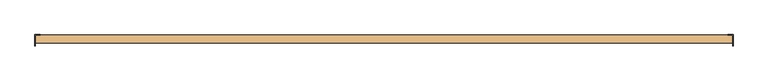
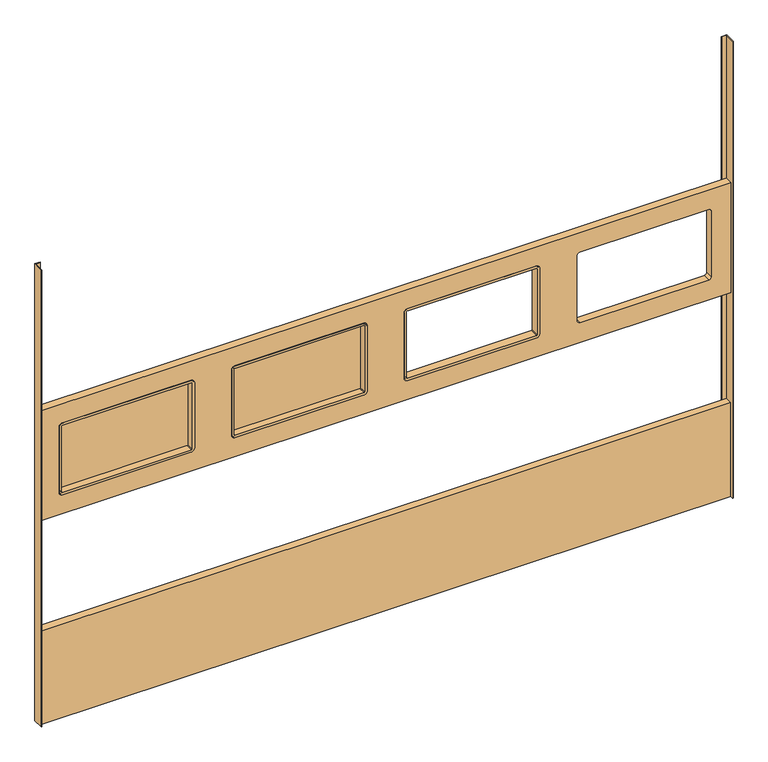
"""IFC4 building model written with IfcOpenShell, lengths in millimetres: door geometry, Vrata Nassau 9000F : Vrata Nassau 9000F."""

from ifc_helpers import new_model, si_unit, point, frame, frame_2d, origin, origin_with_axes, place, context, project, spatial, polyline, circle_curve, trimmed, segment, composite_curve, outline, extrude, source, transform, mapped, element, save
from ifc_brep_helpers import plane_surface, cylinder_surface, revolved_surface, advanced_brep


def door_15ad7d81(model_context):
    return source(origin(), model_context, "Body", "SolidModel", [
        advanced_brep(
        [(112.5, -225.5, 1388.0), (112.5, -269.5, 1388.0), (112.5, -269.5, 1788.0), (112.5, -225.5, 1788.0), (107.5, -223.5, 1388.0), (107.5, -225.5, 1388.0), (107.5, -225.5, 1788.0), (107.5, -223.5, 1788.0), (122.5, -271.5, 1388.0), (122.5, -223.5, 1388.0), (122.5, -223.5, 1788.0), (122.5, -271.5, 1788.0), (107.5, -269.5, 1388.0), (107.5, -271.5, 1388.0), (107.5, -271.5, 1788.0), (107.5, -269.5, 1788.0), (127.5, -225.5, 1803.0), (127.5, -269.5, 1803.0), (872.5, -269.5, 1803.0), (872.5, -225.5, 1803.0), (127.5, -223.5, 1808.0), (127.5, -225.5, 1808.0), (872.5, -225.5, 1808.0), (872.5, -223.5, 1808.0), (127.5, -271.5, 1793.0), (127.5, -223.5, 1793.0), (872.5, -223.5, 1793.0), (872.5, -271.5, 1793.0), (127.5, -269.5, 1808.0), (127.5, -271.5, 1808.0), (872.5, -271.5, 1808.0), (872.5, -269.5, 1808.0), (887.5, -225.5, 1788.0), (887.5, -269.5, 1788.0), (887.5, -269.5, 1388.0), (887.5, -225.5, 1388.0), (892.5, -223.5, 1788.0), (892.5, -225.5, 1788.0), (892.5, -225.5, 1388.0), (892.5, -223.5, 1388.0), (877.5, -271.5, 1788.0), (877.5, -223.5, 1788.0), (877.5, -223.5, 1388.0), (877.5, -271.5, 1388.0), (892.5, -269.5, 1788.0), (892.5, -271.5, 1788.0), (892.5, -271.5, 1388.0), (892.5, -269.5, 1388.0), (872.5, -225.5, 1373.0), (872.5, -269.5, 1373.0), (127.5, -269.5, 1373.0), (127.5, -225.5, 1373.0), (872.5, -223.5, 1368.0), (872.5, -225.5, 1368.0), (127.5, -225.5, 1368.0), (127.5, -223.5, 1368.0), (872.5, -271.5, 1383.0), (872.5, -223.5, 1383.0), (127.5, -223.5, 1383.0), (127.5, -271.5, 1383.0), (872.5, -269.5, 1368.0), (872.5, -271.5, 1368.0), (127.5, -271.5, 1368.0), (127.5, -269.5, 1368.0)],
        [
            (0, 1),
            (1, 2),
            (2, 3),
            (3, 0),
            (4, 5),
            (5, 6),
            (6, 7),
            (7, 4),
            (8, 9),
            (9, 10),
            (10, 11),
            (11, 8),
            (12, 13),
            (13, 14),
            (14, 15),
            (15, 12),
            (16, 17),
            (17, 18),
            (18, 19),
            (19, 16),
            (20, 21),
            (21, 22),
            (22, 23),
            (23, 20),
            (24, 25),
            (25, 26),
            (26, 27),
            (27, 24),
            (28, 29),
            (29, 30),
            (30, 31),
            (31, 28),
            (32, 33),
            (33, 34),
            (34, 35),
            (35, 32),
            (36, 37),
            (37, 38),
            (38, 39),
            (39, 36),
            (40, 41),
            (41, 42),
            (42, 43),
            (43, 40),
            (44, 45),
            (45, 46),
            (46, 47),
            (47, 44),
            (48, 49),
            (49, 50),
            (50, 51),
            (51, 48),
            (52, 53),
            (53, 54),
            (54, 55),
            (55, 52),
            (56, 57),
            (57, 58),
            (58, 59),
            (59, 56),
            (60, 61),
            (61, 62),
            (62, 63),
            (63, 60),
            (0, 51, circle_curve(frame((127.5, -225.5, 1388.0), z_axis=(0.0, -1.0, 0.0), x_axis=(0.0, 0.0, -1.0)), 15.0)),
            (50, 1, circle_curve(frame((127.5, -269.5, 1388.0), z_axis=(0.0, 1.0, 0.0), x_axis=(0.0, 0.0, -1.0)), 15.0)),
            (4, 55, circle_curve(frame((127.5, -223.5, 1388.0), z_axis=(0.0, -1.0, 0.0), x_axis=(0.0, 0.0, -1.0)), 20.0)),
            (54, 5, circle_curve(frame((127.5, -225.5, 1388.0), z_axis=(0.0, 1.0, 0.0), x_axis=(0.0, 0.0, -1.0)), 20.0)),
            (8, 59, circle_curve(frame((127.5, -271.5, 1388.0), z_axis=(0.0, -1.0, 0.0), x_axis=(0.0, 0.0, -1.0)), 5.0)),
            (58, 9, circle_curve(frame((127.5, -223.5, 1388.0), z_axis=(0.0, 1.0, 0.0), x_axis=(0.0, 0.0, -1.0)), 5.0)),
            (12, 63, circle_curve(frame((127.5, -269.5, 1388.0), z_axis=(0.0, -1.0, 0.0), x_axis=(0.0, 0.0, -1.0)), 20.0)),
            (62, 13, circle_curve(frame((127.5, -271.5, 1388.0), z_axis=(0.0, 1.0, 0.0), x_axis=(0.0, 0.0, -1.0)), 20.0)),
            (16, 3, circle_curve(frame((127.5, -225.5, 1788.0), z_axis=(0.0, -1.0, 0.0), x_axis=(-1.0, 0.0, 0.0)), 15.0)),
            (2, 17, circle_curve(frame((127.5, -269.5, 1788.0), z_axis=(0.0, 1.0, 0.0), x_axis=(-1.0, 0.0, 0.0)), 15.0)),
            (20, 7, circle_curve(frame((127.5, -223.5, 1788.0), z_axis=(0.0, -1.0, 0.0), x_axis=(-1.0, 0.0, 0.0)), 20.0)),
            (6, 21, circle_curve(frame((127.5, -225.5, 1788.0), z_axis=(0.0, 1.0, 0.0), x_axis=(-1.0, 0.0, 0.0)), 20.0)),
            (24, 11, circle_curve(frame((127.5, -271.5, 1788.0), z_axis=(0.0, -1.0, 0.0), x_axis=(-1.0, 0.0, 0.0)), 5.0)),
            (10, 25, circle_curve(frame((127.5, -223.5, 1788.0), z_axis=(0.0, 1.0, 0.0), x_axis=(-1.0, 0.0, 0.0)), 5.0)),
            (28, 15, circle_curve(frame((127.5, -269.5, 1788.0), z_axis=(0.0, -1.0, 0.0), x_axis=(-1.0, 0.0, 0.0)), 20.0)),
            (14, 29, circle_curve(frame((127.5, -271.5, 1788.0), z_axis=(0.0, 1.0, 0.0), x_axis=(-1.0, 0.0, 0.0)), 20.0)),
            (32, 19, circle_curve(frame((872.5, -225.5, 1788.0), z_axis=(0.0, -1.0, 0.0), x_axis=(0.0, 0.0, 1.0)), 15.0)),
            (18, 33, circle_curve(frame((872.5, -269.5, 1788.0), z_axis=(0.0, 1.0, 0.0), x_axis=(0.0, 0.0, 1.0)), 15.0)),
            (36, 23, circle_curve(frame((872.5, -223.5, 1788.0), z_axis=(0.0, -1.0, 0.0), x_axis=(0.0, 0.0, 1.0)), 20.0)),
            (22, 37, circle_curve(frame((872.5, -225.5, 1788.0), z_axis=(0.0, 1.0, 0.0), x_axis=(0.0, 0.0, 1.0)), 20.0)),
            (40, 27, circle_curve(frame((872.5, -271.5, 1788.0), z_axis=(0.0, -1.0, 0.0), x_axis=(0.0, 0.0, 1.0)), 5.0)),
            (26, 41, circle_curve(frame((872.5, -223.5, 1788.0), z_axis=(0.0, 1.0, 0.0), x_axis=(0.0, 0.0, 1.0)), 5.0)),
            (44, 31, circle_curve(frame((872.5, -269.5, 1788.0), z_axis=(0.0, -1.0, 0.0), x_axis=(0.0, 0.0, 1.0)), 20.0)),
            (30, 45, circle_curve(frame((872.5, -271.5, 1788.0), z_axis=(0.0, 1.0, 0.0), x_axis=(0.0, 0.0, 1.0)), 20.0)),
            (47, 60, circle_curve(frame((872.5, -269.5, 1388.0), z_axis=(0.0, 1.0, 0.0), x_axis=(1.0, 0.0, 0.0)), 20.0)),
            (49, 34, circle_curve(frame((872.5, -269.5, 1388.0), z_axis=(0.0, -1.0, 0.0), x_axis=(1.0, 0.0, 0.0)), 15.0)),
            (48, 35, circle_curve(frame((872.5, -225.5, 1388.0), z_axis=(0.0, -1.0, 0.0), x_axis=(1.0, 0.0, 0.0)), 15.0)),
            (53, 38, circle_curve(frame((872.5, -225.5, 1388.0), z_axis=(0.0, -1.0, 0.0), x_axis=(1.0, 0.0, 0.0)), 20.0)),
            (52, 39, circle_curve(frame((872.5, -223.5, 1388.0), z_axis=(0.0, -1.0, 0.0), x_axis=(1.0, 0.0, 0.0)), 20.0)),
            (57, 42, circle_curve(frame((872.5, -223.5, 1388.0), z_axis=(0.0, -1.0, 0.0), x_axis=(1.0, 0.0, 0.0)), 5.0)),
            (56, 43, circle_curve(frame((872.5, -271.5, 1388.0), z_axis=(0.0, -1.0, 0.0), x_axis=(1.0, 0.0, 0.0)), 5.0)),
            (61, 46, circle_curve(frame((872.5, -271.5, 1388.0), z_axis=(0.0, -1.0, 0.0), x_axis=(1.0, 0.0, 0.0)), 20.0)),
        ],
        [
            plane_surface(frame((112.5, -269.5, 1388.0), z_axis=(-1.0, 0.0, 0.0), x_axis=(0.0, 0.0, 1.0))),
            plane_surface(frame((107.5, -225.5, 1388.0), z_axis=(-1.0, 0.0, 0.0), x_axis=(0.0, 0.0, 1.0))),
            plane_surface(frame((122.5, -223.5, 1388.0), z_axis=(1.0, 0.0, 0.0), x_axis=(0.0, 0.0, 1.0))),
            plane_surface(frame((107.5, -271.5, 1388.0), z_axis=(-1.0, 0.0, 0.0), x_axis=(0.0, 0.0, 1.0))),
            plane_surface(frame((127.5, -269.5, 1803.0), z_axis=(0.0, 0.0, 1.0), x_axis=(1.0, 0.0, 0.0))),
            plane_surface(frame((127.5, -225.5, 1808.0), z_axis=(0.0, 0.0, 1.0), x_axis=(1.0, 0.0, 0.0))),
            plane_surface(frame((127.5, -223.5, 1793.0), z_axis=(0.0, 0.0, -1.0), x_axis=(1.0, 0.0, 0.0))),
            plane_surface(frame((127.5, -271.5, 1808.0), z_axis=(0.0, 0.0, 1.0), x_axis=(1.0, 0.0, 0.0))),
            plane_surface(frame((887.5, -269.5, 1788.0), z_axis=(1.0, 0.0, 0.0), x_axis=(0.0, 0.0, -1.0))),
            plane_surface(frame((892.5, -225.5, 1788.0), z_axis=(1.0, 0.0, 0.0), x_axis=(0.0, 0.0, -1.0))),
            plane_surface(frame((877.5, -223.5, 1788.0), z_axis=(-1.0, 0.0, 0.0), x_axis=(0.0, 0.0, -1.0))),
            plane_surface(frame((892.5, -271.5, 1788.0), z_axis=(1.0, 0.0, 0.0), x_axis=(0.0, 0.0, -1.0))),
            plane_surface(frame((872.5, -269.5, 1373.0), z_axis=(0.0, 0.0, -1.0), x_axis=(-1.0, 0.0, 0.0))),
            plane_surface(frame((872.5, -225.5, 1368.0), z_axis=(0.0, 0.0, -1.0), x_axis=(-1.0, 0.0, 0.0))),
            plane_surface(frame((872.5, -223.5, 1383.0), z_axis=(0.0, 0.0, 1.0), x_axis=(-1.0, 0.0, 0.0))),
            plane_surface(frame((872.5, -271.5, 1368.0), z_axis=(0.0, 0.0, -1.0), x_axis=(-1.0, 0.0, 0.0))),
            cylinder_surface(frame((127.5, -225.5, 1388.0), z_axis=(0.0, 1.0, 0.0), x_axis=(0.0, 0.0, -1.0)), 15.0),
            cylinder_surface(frame((127.5, -225.5, 1388.0), z_axis=(0.0, 1.0, 0.0), x_axis=(0.0, 0.0, -1.0)), 20.0),
            revolved_surface(polyline([(127.5, -223.5, 1383.0), (127.5, -271.5, 1383.0)]), (127.5, -225.5, 1388.0), (0.0, 1.0, 0.0)),
            cylinder_surface(frame((127.5, -225.5, 1788.0), z_axis=(0.0, 1.0, 0.0), x_axis=(-1.0, 0.0, 0.0)), 15.0),
            cylinder_surface(frame((127.5, -225.5, 1788.0), z_axis=(0.0, 1.0, 0.0), x_axis=(-1.0, 0.0, 0.0)), 20.0),
            revolved_surface(polyline([(122.5, -223.5, 1788.0), (122.5, -271.5, 1788.0)]), (127.5, -225.5, 1788.0), (0.0, 1.0, 0.0)),
            cylinder_surface(frame((872.5, -225.5, 1788.0), z_axis=(0.0, 1.0, 0.0), x_axis=(0.0, 0.0, 1.0)), 15.0),
            cylinder_surface(frame((872.5, -225.5, 1788.0), z_axis=(0.0, 1.0, 0.0), x_axis=(0.0, 0.0, 1.0)), 20.0),
            revolved_surface(polyline([(872.5, -223.5, 1793.0), (872.5, -271.5, 1793.0)]), (872.5, -225.5, 1788.0), (0.0, 1.0, 0.0)),
            plane_surface(frame((872.5, -269.5, 1388.0), z_axis=(0.0, 1.0, 0.0), x_axis=(1.0, 0.0, 0.0))),
            cylinder_surface(frame((872.5, -225.5, 1388.0), z_axis=(0.0, 1.0, 0.0), x_axis=(1.0, 0.0, 0.0)), 15.0),
            plane_surface(frame((872.5, -225.5, 1388.0), z_axis=(0.0, -1.0, 0.0), x_axis=(1.0, 0.0, 0.0))),
            cylinder_surface(frame((872.5, -225.5, 1388.0), z_axis=(0.0, 1.0, 0.0), x_axis=(1.0, 0.0, 0.0)), 20.0),
            plane_surface(frame((872.5, -223.5, 1388.0), z_axis=(0.0, 1.0, 0.0), x_axis=(1.0, 0.0, 0.0))),
            revolved_surface(polyline([(877.5, -223.5, 1388.0), (877.5, -271.5, 1388.0)]), (872.5, -225.5, 1388.0), (0.0, 1.0, 0.0)),
            plane_surface(frame((872.5, -271.5, 1388.0), z_axis=(0.0, -1.0, 0.0), x_axis=(1.0, 0.0, 0.0))),
        ],
        [
            (0, [[1, 2, 3, 4]]),
            (1, [[5, 6, 7, 8]]),
            (2, [[9, 10, 11, 12]]),
            (3, [[13, 14, 15, 16]]),
            (4, [[17, 18, 19, 20]]),
            (5, [[21, 22, 23, 24]]),
            (6, [[25, 26, 27, 28]]),
            (7, [[29, 30, 31, 32]]),
            (8, [[33, 34, 35, 36]]),
            (9, [[37, 38, 39, 40]]),
            (10, [[41, 42, 43, 44]]),
            (11, [[45, 46, 47, 48]]),
            (12, [[49, 50, 51, 52]]),
            (13, [[53, 54, 55, 56]]),
            (14, [[57, 58, 59, 60]]),
            (15, [[61, 62, 63, 64]]),
            (16, [[65, -51, 66, -1]]),
            (17, [[67, -55, 68, -5]]),
            (18, [[69, -59, 70, -9]]),
            (17, [[71, -63, 72, -13]]),
            (19, [[73, -3, 74, -17]]),
            (20, [[75, -7, 76, -21]]),
            (21, [[77, -11, 78, -25]]),
            (20, [[79, -15, 80, -29]]),
            (22, [[81, -19, 82, -33]]),
            (23, [[83, -23, 84, -37]]),
            (24, [[85, -27, 86, -41]]),
            (23, [[87, -31, 88, -45]]),
            (25, [[-32, -87, -48, 89, -64, -71, -16, -79], [90, -34, -82, -18, -74, -2, -66, -50]]),
            (26, [[91, -35, -90, -49]]),
            (27, [[92, -38, -84, -22, -76, -6, -68, -54], [-20, -81, -36, -91, -52, -65, -4, -73]]),
            (28, [[93, -39, -92, -53]]),
            (29, [[-24, -83, -40, -93, -56, -67, -8, -75], [94, -42, -86, -26, -78, -10, -70, -58]]),
            (30, [[95, -43, -94, -57]]),
            (31, [[96, -46, -88, -30, -80, -14, -72, -62], [-28, -85, -44, -95, -60, -69, -12, -77]]),
            (28, [[-89, -47, -96, -61]]),
        ],
    ),
        extrude(outline(composite_curve([segment(polyline([(1383.0, -872.5), (1383.0, -127.5)]), True, "CONTINUOUS"), segment(trimmed(circle_curve(frame_2d((1388.0, -127.5)), 5.0), [point((1383.0, -127.5))], [point((1388.0, -122.5))], False, "CARTESIAN"), True, "CONTINUOUS"), segment(polyline([(1388.0, -122.5), (1788.0, -122.5)]), True, "CONTINUOUS"), segment(trimmed(circle_curve(frame_2d((1788.0, -127.5)), 5.0), [point((1788.0, -122.5))], [point((1793.0, -127.5))], False, "CARTESIAN"), True, "CONTINUOUS"), segment(polyline([(1793.0, -127.5), (1793.0, -872.5)]), True, "CONTINUOUS"), segment(trimmed(circle_curve(frame_2d((1788.0, -872.5)), 5.0), [point((1793.0, -872.5))], [point((1788.0, -877.5))], False, "CARTESIAN"), True, "CONTINUOUS"), segment(polyline([(1788.0, -877.5), (1388.0, -877.5)]), True, "CONTINUOUS"), segment(trimmed(circle_curve(frame_2d((1388.0, -872.5)), 5.0), [point((1388.0, -877.5))], [point((1383.0, -872.5))], False, "CARTESIAN"), True, "CONTINUOUS")], self_intersect=False)), frame((0.0, -230.5, 0.0), z_axis=(0.0, 1.0, 0.0), x_axis=(0.0, 0.0, 1.0)), (0.0, 0.0, 1.0), 5.0),
        advanced_brep(
        [(-887.5, -225.5, 1388.0), (-887.5, -269.5, 1388.0), (-887.5, -269.5, 1788.0), (-887.5, -225.5, 1788.0), (-892.5, -223.5, 1388.0), (-892.5, -225.5, 1388.0), (-892.5, -225.5, 1788.0), (-892.5, -223.5, 1788.0), (-877.5, -271.5, 1388.0), (-877.5, -223.5, 1388.0), (-877.5, -223.5, 1788.0), (-877.5, -271.5, 1788.0), (-892.5, -269.5, 1388.0), (-892.5, -271.5, 1388.0), (-892.5, -271.5, 1788.0), (-892.5, -269.5, 1788.0), (-872.5, -225.5, 1803.0), (-872.5, -269.5, 1803.0), (-127.5, -269.5, 1803.0), (-127.5, -225.5, 1803.0), (-872.5, -223.5, 1808.0), (-872.5, -225.5, 1808.0), (-127.5, -225.5, 1808.0), (-127.5, -223.5, 1808.0), (-872.5, -271.5, 1793.0), (-872.5, -223.5, 1793.0), (-127.5, -223.5, 1793.0), (-127.5, -271.5, 1793.0), (-872.5, -269.5, 1808.0), (-872.5, -271.5, 1808.0), (-127.5, -271.5, 1808.0), (-127.5, -269.5, 1808.0), (-112.5, -225.5, 1788.0), (-112.5, -269.5, 1788.0), (-112.5, -269.5, 1388.0), (-112.5, -225.5, 1388.0), (-107.5, -223.5, 1788.0), (-107.5, -225.5, 1788.0), (-107.5, -225.5, 1388.0), (-107.5, -223.5, 1388.0), (-122.5, -271.5, 1788.0), (-122.5, -223.5, 1788.0), (-122.5, -223.5, 1388.0), (-122.5, -271.5, 1388.0), (-107.5, -269.5, 1788.0), (-107.5, -271.5, 1788.0), (-107.5, -271.5, 1388.0), (-107.5, -269.5, 1388.0), (-127.5, -225.5, 1373.0), (-127.5, -269.5, 1373.0), (-872.5, -269.5, 1373.0), (-872.5, -225.5, 1373.0), (-127.5, -223.5, 1368.0), (-127.5, -225.5, 1368.0), (-872.5, -225.5, 1368.0), (-872.5, -223.5, 1368.0), (-127.5, -271.5, 1383.0), (-127.5, -223.5, 1383.0), (-872.5, -223.5, 1383.0), (-872.5, -271.5, 1383.0), (-127.5, -269.5, 1368.0), (-127.5, -271.5, 1368.0), (-872.5, -271.5, 1368.0), (-872.5, -269.5, 1368.0)],
        [
            (0, 1),
            (1, 2),
            (2, 3),
            (3, 0),
            (4, 5),
            (5, 6),
            (6, 7),
            (7, 4),
            (8, 9),
            (9, 10),
            (10, 11),
            (11, 8),
            (12, 13),
            (13, 14),
            (14, 15),
            (15, 12),
            (16, 17),
            (17, 18),
            (18, 19),
            (19, 16),
            (20, 21),
            (21, 22),
            (22, 23),
            (23, 20),
            (24, 25),
            (25, 26),
            (26, 27),
            (27, 24),
            (28, 29),
            (29, 30),
            (30, 31),
            (31, 28),
            (32, 33),
            (33, 34),
            (34, 35),
            (35, 32),
            (36, 37),
            (37, 38),
            (38, 39),
            (39, 36),
            (40, 41),
            (41, 42),
            (42, 43),
            (43, 40),
            (44, 45),
            (45, 46),
            (46, 47),
            (47, 44),
            (48, 49),
            (49, 50),
            (50, 51),
            (51, 48),
            (52, 53),
            (53, 54),
            (54, 55),
            (55, 52),
            (56, 57),
            (57, 58),
            (58, 59),
            (59, 56),
            (60, 61),
            (61, 62),
            (62, 63),
            (63, 60),
            (0, 51, circle_curve(frame((-872.5, -225.5, 1388.0), z_axis=(0.0, -1.0, 0.0), x_axis=(0.0, 0.0, -1.0)), 15.0)),
            (50, 1, circle_curve(frame((-872.5, -269.5, 1388.0), z_axis=(0.0, 1.0, 0.0), x_axis=(0.0, 0.0, -1.0)), 15.0)),
            (4, 55, circle_curve(frame((-872.5, -223.5, 1388.0), z_axis=(0.0, -1.0, 0.0), x_axis=(0.0, 0.0, -1.0)), 20.0)),
            (54, 5, circle_curve(frame((-872.5, -225.5, 1388.0), z_axis=(0.0, 1.0, 0.0), x_axis=(0.0, 0.0, -1.0)), 20.0)),
            (8, 59, circle_curve(frame((-872.5, -271.5, 1388.0), z_axis=(0.0, -1.0, 0.0), x_axis=(0.0, 0.0, -1.0)), 5.0)),
            (58, 9, circle_curve(frame((-872.5, -223.5, 1388.0), z_axis=(0.0, 1.0, 0.0), x_axis=(0.0, 0.0, -1.0)), 5.0)),
            (12, 63, circle_curve(frame((-872.5, -269.5, 1388.0), z_axis=(0.0, -1.0, 0.0), x_axis=(0.0, 0.0, -1.0)), 20.0)),
            (62, 13, circle_curve(frame((-872.5, -271.5, 1388.0), z_axis=(0.0, 1.0, 0.0), x_axis=(0.0, 0.0, -1.0)), 20.0)),
            (16, 3, circle_curve(frame((-872.5, -225.5, 1788.0), z_axis=(0.0, -1.0, 0.0), x_axis=(-1.0, 0.0, 0.0)), 15.0)),
            (2, 17, circle_curve(frame((-872.5, -269.5, 1788.0), z_axis=(0.0, 1.0, 0.0), x_axis=(-1.0, 0.0, 0.0)), 15.0)),
            (20, 7, circle_curve(frame((-872.5, -223.5, 1788.0), z_axis=(0.0, -1.0, 0.0), x_axis=(-1.0, 0.0, 0.0)), 20.0)),
            (6, 21, circle_curve(frame((-872.5, -225.5, 1788.0), z_axis=(0.0, 1.0, 0.0), x_axis=(-1.0, 0.0, 0.0)), 20.0)),
            (24, 11, circle_curve(frame((-872.5, -271.5, 1788.0), z_axis=(0.0, -1.0, 0.0), x_axis=(-1.0, 0.0, 0.0)), 5.0)),
            (10, 25, circle_curve(frame((-872.5, -223.5, 1788.0), z_axis=(0.0, 1.0, 0.0), x_axis=(-1.0, 0.0, 0.0)), 5.0)),
            (28, 15, circle_curve(frame((-872.5, -269.5, 1788.0), z_axis=(0.0, -1.0, 0.0), x_axis=(-1.0, 0.0, 0.0)), 20.0)),
            (14, 29, circle_curve(frame((-872.5, -271.5, 1788.0), z_axis=(0.0, 1.0, 0.0), x_axis=(-1.0, 0.0, 0.0)), 20.0)),
            (32, 19, circle_curve(frame((-127.5, -225.5, 1788.0), z_axis=(0.0, -1.0, 0.0), x_axis=(0.0, 0.0, 1.0)), 15.0)),
            (18, 33, circle_curve(frame((-127.5, -269.5, 1788.0), z_axis=(0.0, 1.0, 0.0), x_axis=(0.0, 0.0, 1.0)), 15.0)),
            (36, 23, circle_curve(frame((-127.5, -223.5, 1788.0), z_axis=(0.0, -1.0, 0.0), x_axis=(0.0, 0.0, 1.0)), 20.0)),
            (22, 37, circle_curve(frame((-127.5, -225.5, 1788.0), z_axis=(0.0, 1.0, 0.0), x_axis=(0.0, 0.0, 1.0)), 20.0)),
            (40, 27, circle_curve(frame((-127.5, -271.5, 1788.0), z_axis=(0.0, -1.0, 0.0), x_axis=(0.0, 0.0, 1.0)), 5.0)),
            (26, 41, circle_curve(frame((-127.5, -223.5, 1788.0), z_axis=(0.0, 1.0, 0.0), x_axis=(0.0, 0.0, 1.0)), 5.0)),
            (44, 31, circle_curve(frame((-127.5, -269.5, 1788.0), z_axis=(0.0, -1.0, 0.0), x_axis=(0.0, 0.0, 1.0)), 20.0)),
            (30, 45, circle_curve(frame((-127.5, -271.5, 1788.0), z_axis=(0.0, 1.0, 0.0), x_axis=(0.0, 0.0, 1.0)), 20.0)),
            (47, 60, circle_curve(frame((-127.5, -269.5, 1388.0), z_axis=(0.0, 1.0, 0.0), x_axis=(1.0, 0.0, 0.0)), 20.0)),
            (49, 34, circle_curve(frame((-127.5, -269.5, 1388.0), z_axis=(0.0, -1.0, 0.0), x_axis=(1.0, 0.0, 0.0)), 15.0)),
            (48, 35, circle_curve(frame((-127.5, -225.5, 1388.0), z_axis=(0.0, -1.0, 0.0), x_axis=(1.0, 0.0, 0.0)), 15.0)),
            (53, 38, circle_curve(frame((-127.5, -225.5, 1388.0), z_axis=(0.0, -1.0, 0.0), x_axis=(1.0, 0.0, 0.0)), 20.0)),
            (52, 39, circle_curve(frame((-127.5, -223.5, 1388.0), z_axis=(0.0, -1.0, 0.0), x_axis=(1.0, 0.0, 0.0)), 20.0)),
            (57, 42, circle_curve(frame((-127.5, -223.5, 1388.0), z_axis=(0.0, -1.0, 0.0), x_axis=(1.0, 0.0, 0.0)), 5.0)),
            (56, 43, circle_curve(frame((-127.5, -271.5, 1388.0), z_axis=(0.0, -1.0, 0.0), x_axis=(1.0, 0.0, 0.0)), 5.0)),
            (61, 46, circle_curve(frame((-127.5, -271.5, 1388.0), z_axis=(0.0, -1.0, 0.0), x_axis=(1.0, 0.0, 0.0)), 20.0)),
        ],
        [
            plane_surface(frame((-887.5, -269.5, 1388.0), z_axis=(-1.0, 0.0, 0.0), x_axis=(0.0, 0.0, 1.0))),
            plane_surface(frame((-892.5, -225.5, 1388.0), z_axis=(-1.0, 0.0, 0.0), x_axis=(0.0, 0.0, 1.0))),
            plane_surface(frame((-877.5, -223.5, 1388.0), z_axis=(1.0, 0.0, 0.0), x_axis=(0.0, 0.0, 1.0))),
            plane_surface(frame((-892.5, -271.5, 1388.0), z_axis=(-1.0, 0.0, 0.0), x_axis=(0.0, 0.0, 1.0))),
            plane_surface(frame((-872.5, -269.5, 1803.0), z_axis=(0.0, 0.0, 1.0), x_axis=(1.0, 0.0, 0.0))),
            plane_surface(frame((-872.5, -225.5, 1808.0), z_axis=(0.0, 0.0, 1.0), x_axis=(1.0, 0.0, 0.0))),
            plane_surface(frame((-872.5, -223.5, 1793.0), z_axis=(0.0, 0.0, -1.0), x_axis=(1.0, 0.0, 0.0))),
            plane_surface(frame((-872.5, -271.5, 1808.0), z_axis=(0.0, 0.0, 1.0), x_axis=(1.0, 0.0, 0.0))),
            plane_surface(frame((-112.5, -269.5, 1788.0), z_axis=(1.0, 0.0, 0.0), x_axis=(0.0, 0.0, -1.0))),
            plane_surface(frame((-107.5, -225.5, 1788.0), z_axis=(1.0, 0.0, 0.0), x_axis=(0.0, 0.0, -1.0))),
            plane_surface(frame((-122.5, -223.5, 1788.0), z_axis=(-1.0, 0.0, 0.0), x_axis=(0.0, 0.0, -1.0))),
            plane_surface(frame((-107.5, -271.5, 1788.0), z_axis=(1.0, 0.0, 0.0), x_axis=(0.0, 0.0, -1.0))),
            plane_surface(frame((-127.5, -269.5, 1373.0), z_axis=(0.0, 0.0, -1.0), x_axis=(-1.0, 0.0, 0.0))),
            plane_surface(frame((-127.5, -225.5, 1368.0), z_axis=(0.0, 0.0, -1.0), x_axis=(-1.0, 0.0, 0.0))),
            plane_surface(frame((-127.5, -223.5, 1383.0), z_axis=(0.0, 0.0, 1.0), x_axis=(-1.0, 0.0, 0.0))),
            plane_surface(frame((-127.5, -271.5, 1368.0), z_axis=(0.0, 0.0, -1.0), x_axis=(-1.0, 0.0, 0.0))),
            cylinder_surface(frame((-872.5, -225.5, 1388.0), z_axis=(0.0, 1.0, 0.0), x_axis=(0.0, 0.0, -1.0)), 15.0),
            cylinder_surface(frame((-872.5, -225.5, 1388.0), z_axis=(0.0, 1.0, 0.0), x_axis=(0.0, 0.0, -1.0)), 20.0),
            revolved_surface(polyline([(-872.5, -223.5, 1383.0), (-872.5, -271.5, 1383.0)]), (-872.5, -225.5, 1388.0), (0.0, 1.0, 0.0)),
            cylinder_surface(frame((-872.5, -225.5, 1788.0), z_axis=(0.0, 1.0, 0.0), x_axis=(-1.0, 0.0, 0.0)), 15.0),
            cylinder_surface(frame((-872.5, -225.5, 1788.0), z_axis=(0.0, 1.0, 0.0), x_axis=(-1.0, 0.0, 0.0)), 20.0),
            revolved_surface(polyline([(-877.5, -223.5, 1788.0), (-877.5, -271.5, 1788.0)]), (-872.5, -225.5, 1788.0), (0.0, 1.0, 0.0)),
            cylinder_surface(frame((-127.5, -225.5, 1788.0), z_axis=(0.0, 1.0, 0.0), x_axis=(0.0, 0.0, 1.0)), 15.0),
            cylinder_surface(frame((-127.5, -225.5, 1788.0), z_axis=(0.0, 1.0, 0.0), x_axis=(0.0, 0.0, 1.0)), 20.0),
            revolved_surface(polyline([(-127.5, -223.5, 1793.0), (-127.5, -271.5, 1793.0)]), (-127.5, -225.5, 1788.0), (0.0, 1.0, 0.0)),
            plane_surface(frame((-127.5, -269.5, 1388.0), z_axis=(0.0, 1.0, 0.0), x_axis=(1.0, 0.0, 0.0))),
            cylinder_surface(frame((-127.5, -225.5, 1388.0), z_axis=(0.0, 1.0, 0.0), x_axis=(1.0, 0.0, 0.0)), 15.0),
            plane_surface(frame((-127.5, -225.5, 1388.0), z_axis=(0.0, -1.0, 0.0), x_axis=(1.0, 0.0, 0.0))),
            cylinder_surface(frame((-127.5, -225.5, 1388.0), z_axis=(0.0, 1.0, 0.0), x_axis=(1.0, 0.0, 0.0)), 20.0),
            plane_surface(frame((-127.5, -223.5, 1388.0), z_axis=(0.0, 1.0, 0.0), x_axis=(1.0, 0.0, 0.0))),
            revolved_surface(polyline([(-122.5, -223.5, 1388.0), (-122.5, -271.5, 1388.0)]), (-127.5, -225.5, 1388.0), (0.0, 1.0, 0.0)),
            plane_surface(frame((-127.5, -271.5, 1388.0), z_axis=(0.0, -1.0, 0.0), x_axis=(1.0, 0.0, 0.0))),
        ],
        [
            (0, [[1, 2, 3, 4]]),
            (1, [[5, 6, 7, 8]]),
            (2, [[9, 10, 11, 12]]),
            (3, [[13, 14, 15, 16]]),
            (4, [[17, 18, 19, 20]]),
            (5, [[21, 22, 23, 24]]),
            (6, [[25, 26, 27, 28]]),
            (7, [[29, 30, 31, 32]]),
            (8, [[33, 34, 35, 36]]),
            (9, [[37, 38, 39, 40]]),
            (10, [[41, 42, 43, 44]]),
            (11, [[45, 46, 47, 48]]),
            (12, [[49, 50, 51, 52]]),
            (13, [[53, 54, 55, 56]]),
            (14, [[57, 58, 59, 60]]),
            (15, [[61, 62, 63, 64]]),
            (16, [[65, -51, 66, -1]]),
            (17, [[67, -55, 68, -5]]),
            (18, [[69, -59, 70, -9]]),
            (17, [[71, -63, 72, -13]]),
            (19, [[73, -3, 74, -17]]),
            (20, [[75, -7, 76, -21]]),
            (21, [[77, -11, 78, -25]]),
            (20, [[79, -15, 80, -29]]),
            (22, [[81, -19, 82, -33]]),
            (23, [[83, -23, 84, -37]]),
            (24, [[85, -27, 86, -41]]),
            (23, [[87, -31, 88, -45]]),
            (25, [[-32, -87, -48, 89, -64, -71, -16, -79], [90, -34, -82, -18, -74, -2, -66, -50]]),
            (26, [[91, -35, -90, -49]]),
            (27, [[92, -38, -84, -22, -76, -6, -68, -54], [-20, -81, -36, -91, -52, -65, -4, -73]]),
            (28, [[93, -39, -92, -53]]),
            (29, [[-24, -83, -40, -93, -56, -67, -8, -75], [94, -42, -86, -26, -78, -10, -70, -58]]),
            (30, [[95, -43, -94, -57]]),
            (31, [[96, -46, -88, -30, -80, -14, -72, -62], [-28, -85, -44, -95, -60, -69, -12, -77]]),
            (28, [[-89, -47, -96, -61]]),
        ],
    ),
        extrude(outline(composite_curve([segment(polyline([(1383.0, -1872.5), (1383.0, -1127.5)]), True, "CONTINUOUS"), segment(trimmed(circle_curve(frame_2d((1388.0, -1127.5)), 5.0), [point((1383.0, -1127.5))], [point((1388.0, -1122.5))], False, "CARTESIAN"), True, "CONTINUOUS"), segment(polyline([(1388.0, -1122.5), (1788.0, -1122.5)]), True, "CONTINUOUS"), segment(trimmed(circle_curve(frame_2d((1788.0, -1127.5)), 5.0), [point((1788.0, -1122.5))], [point((1793.0, -1127.5))], False, "CARTESIAN"), True, "CONTINUOUS"), segment(polyline([(1793.0, -1127.5), (1793.0, -1872.5)]), True, "CONTINUOUS"), segment(trimmed(circle_curve(frame_2d((1788.0, -1872.5)), 5.0), [point((1793.0, -1872.5))], [point((1788.0, -1877.5))], False, "CARTESIAN"), True, "CONTINUOUS"), segment(polyline([(1788.0, -1877.5), (1388.0, -1877.5)]), True, "CONTINUOUS"), segment(trimmed(circle_curve(frame_2d((1388.0, -1872.5)), 5.0), [point((1388.0, -1877.5))], [point((1383.0, -1872.5))], False, "CARTESIAN"), True, "CONTINUOUS")], self_intersect=False)), frame((0.0, -230.5, 0.0), z_axis=(0.0, 1.0, 0.0), x_axis=(0.0, 0.0, 1.0)), (0.0, 0.0, 1.0), 5.0),
        advanced_brep(
        [(-1887.5, -225.5, 1388.0), (-1887.5, -269.5, 1388.0), (-1887.5, -269.5, 1788.0), (-1887.5, -225.5, 1788.0), (-1892.5, -223.5, 1388.0), (-1892.5, -225.5, 1388.0), (-1892.5, -225.5, 1788.0), (-1892.5, -223.5, 1788.0), (-1877.5, -271.5, 1388.0), (-1877.5, -223.5, 1388.0), (-1877.5, -223.5, 1788.0), (-1877.5, -271.5, 1788.0), (-1892.5, -269.5, 1388.0), (-1892.5, -271.5, 1388.0), (-1892.5, -271.5, 1788.0), (-1892.5, -269.5, 1788.0), (-1872.5, -225.5, 1803.0), (-1872.5, -269.5, 1803.0), (-1127.5, -269.5, 1803.0), (-1127.5, -225.5, 1803.0), (-1872.5, -223.5, 1808.0), (-1872.5, -225.5, 1808.0), (-1127.5, -225.5, 1808.0), (-1127.5, -223.5, 1808.0), (-1872.5, -271.5, 1793.0), (-1872.5, -223.5, 1793.0), (-1127.5, -223.5, 1793.0), (-1127.5, -271.5, 1793.0), (-1872.5, -269.5, 1808.0), (-1872.5, -271.5, 1808.0), (-1127.5, -271.5, 1808.0), (-1127.5, -269.5, 1808.0), (-1112.5, -225.5, 1788.0), (-1112.5, -269.5, 1788.0), (-1112.5, -269.5, 1388.0), (-1112.5, -225.5, 1388.0), (-1107.5, -223.5, 1788.0), (-1107.5, -225.5, 1788.0), (-1107.5, -225.5, 1388.0), (-1107.5, -223.5, 1388.0), (-1122.5, -271.5, 1788.0), (-1122.5, -223.5, 1788.0), (-1122.5, -223.5, 1388.0), (-1122.5, -271.5, 1388.0), (-1107.5, -269.5, 1788.0), (-1107.5, -271.5, 1788.0), (-1107.5, -271.5, 1388.0), (-1107.5, -269.5, 1388.0), (-1127.5, -225.5, 1373.0), (-1127.5, -269.5, 1373.0), (-1872.5, -269.5, 1373.0), (-1872.5, -225.5, 1373.0), (-1127.5, -223.5, 1368.0), (-1127.5, -225.5, 1368.0), (-1872.5, -225.5, 1368.0), (-1872.5, -223.5, 1368.0), (-1127.5, -271.5, 1383.0), (-1127.5, -223.5, 1383.0), (-1872.5, -223.5, 1383.0), (-1872.5, -271.5, 1383.0), (-1127.5, -269.5, 1368.0), (-1127.5, -271.5, 1368.0), (-1872.5, -271.5, 1368.0), (-1872.5, -269.5, 1368.0)],
        [
            (0, 1),
            (1, 2),
            (2, 3),
            (3, 0),
            (4, 5),
            (5, 6),
            (6, 7),
            (7, 4),
            (8, 9),
            (9, 10),
            (10, 11),
            (11, 8),
            (12, 13),
            (13, 14),
            (14, 15),
            (15, 12),
            (16, 17),
            (17, 18),
            (18, 19),
            (19, 16),
            (20, 21),
            (21, 22),
            (22, 23),
            (23, 20),
            (24, 25),
            (25, 26),
            (26, 27),
            (27, 24),
            (28, 29),
            (29, 30),
            (30, 31),
            (31, 28),
            (32, 33),
            (33, 34),
            (34, 35),
            (35, 32),
            (36, 37),
            (37, 38),
            (38, 39),
            (39, 36),
            (40, 41),
            (41, 42),
            (42, 43),
            (43, 40),
            (44, 45),
            (45, 46),
            (46, 47),
            (47, 44),
            (48, 49),
            (49, 50),
            (50, 51),
            (51, 48),
            (52, 53),
            (53, 54),
            (54, 55),
            (55, 52),
            (56, 57),
            (57, 58),
            (58, 59),
            (59, 56),
            (60, 61),
            (61, 62),
            (62, 63),
            (63, 60),
            (0, 51, circle_curve(frame((-1872.5, -225.5, 1388.0), z_axis=(0.0, -1.0, 0.0), x_axis=(0.0, 0.0, -1.0)), 15.0)),
            (50, 1, circle_curve(frame((-1872.5, -269.5, 1388.0), z_axis=(0.0, 1.0, 0.0), x_axis=(0.0, 0.0, -1.0)), 15.0)),
            (4, 55, circle_curve(frame((-1872.5, -223.5, 1388.0), z_axis=(0.0, -1.0, 0.0), x_axis=(0.0, 0.0, -1.0)), 20.0)),
            (54, 5, circle_curve(frame((-1872.5, -225.5, 1388.0), z_axis=(0.0, 1.0, 0.0), x_axis=(0.0, 0.0, -1.0)), 20.0)),
            (8, 59, circle_curve(frame((-1872.5, -271.5, 1388.0), z_axis=(0.0, -1.0, 0.0), x_axis=(0.0, 0.0, -1.0)), 5.0)),
            (58, 9, circle_curve(frame((-1872.5, -223.5, 1388.0), z_axis=(0.0, 1.0, 0.0), x_axis=(0.0, 0.0, -1.0)), 5.0)),
            (12, 63, circle_curve(frame((-1872.5, -269.5, 1388.0), z_axis=(0.0, -1.0, 0.0), x_axis=(0.0, 0.0, -1.0)), 20.0)),
            (62, 13, circle_curve(frame((-1872.5, -271.5, 1388.0), z_axis=(0.0, 1.0, 0.0), x_axis=(0.0, 0.0, -1.0)), 20.0)),
            (16, 3, circle_curve(frame((-1872.5, -225.5, 1788.0), z_axis=(0.0, -1.0, 0.0), x_axis=(-1.0, 0.0, 0.0)), 15.0)),
            (2, 17, circle_curve(frame((-1872.5, -269.5, 1788.0), z_axis=(0.0, 1.0, 0.0), x_axis=(-1.0, 0.0, 0.0)), 15.0)),
            (20, 7, circle_curve(frame((-1872.5, -223.5, 1788.0), z_axis=(0.0, -1.0, 0.0), x_axis=(-1.0, 0.0, 0.0)), 20.0)),
            (6, 21, circle_curve(frame((-1872.5, -225.5, 1788.0), z_axis=(0.0, 1.0, 0.0), x_axis=(-1.0, 0.0, 0.0)), 20.0)),
            (24, 11, circle_curve(frame((-1872.5, -271.5, 1788.0), z_axis=(0.0, -1.0, 0.0), x_axis=(-1.0, 0.0, 0.0)), 5.0)),
            (10, 25, circle_curve(frame((-1872.5, -223.5, 1788.0), z_axis=(0.0, 1.0, 0.0), x_axis=(-1.0, 0.0, 0.0)), 5.0)),
            (28, 15, circle_curve(frame((-1872.5, -269.5, 1788.0), z_axis=(0.0, -1.0, 0.0), x_axis=(-1.0, 0.0, 0.0)), 20.0)),
            (14, 29, circle_curve(frame((-1872.5, -271.5, 1788.0), z_axis=(0.0, 1.0, 0.0), x_axis=(-1.0, 0.0, 0.0)), 20.0)),
            (32, 19, circle_curve(frame((-1127.5, -225.5, 1788.0), z_axis=(0.0, -1.0, 0.0), x_axis=(0.0, 0.0, 1.0)), 15.0)),
            (18, 33, circle_curve(frame((-1127.5, -269.5, 1788.0), z_axis=(0.0, 1.0, 0.0), x_axis=(0.0, 0.0, 1.0)), 15.0)),
            (36, 23, circle_curve(frame((-1127.5, -223.5, 1788.0), z_axis=(0.0, -1.0, 0.0), x_axis=(0.0, 0.0, 1.0)), 20.0)),
            (22, 37, circle_curve(frame((-1127.5, -225.5, 1788.0), z_axis=(0.0, 1.0, 0.0), x_axis=(0.0, 0.0, 1.0)), 20.0)),
            (40, 27, circle_curve(frame((-1127.5, -271.5, 1788.0), z_axis=(0.0, -1.0, 0.0), x_axis=(0.0, 0.0, 1.0)), 5.0)),
            (26, 41, circle_curve(frame((-1127.5, -223.5, 1788.0), z_axis=(0.0, 1.0, 0.0), x_axis=(0.0, 0.0, 1.0)), 5.0)),
            (44, 31, circle_curve(frame((-1127.5, -269.5, 1788.0), z_axis=(0.0, -1.0, 0.0), x_axis=(0.0, 0.0, 1.0)), 20.0)),
            (30, 45, circle_curve(frame((-1127.5, -271.5, 1788.0), z_axis=(0.0, 1.0, 0.0), x_axis=(0.0, 0.0, 1.0)), 20.0)),
            (47, 60, circle_curve(frame((-1127.5, -269.5, 1388.0), z_axis=(0.0, 1.0, 0.0), x_axis=(1.0, 0.0, 0.0)), 20.0)),
            (49, 34, circle_curve(frame((-1127.5, -269.5, 1388.0), z_axis=(0.0, -1.0, 0.0), x_axis=(1.0, 0.0, 0.0)), 15.0)),
            (48, 35, circle_curve(frame((-1127.5, -225.5, 1388.0), z_axis=(0.0, -1.0, 0.0), x_axis=(1.0, 0.0, 0.0)), 15.0)),
            (53, 38, circle_curve(frame((-1127.5, -225.5, 1388.0), z_axis=(0.0, -1.0, 0.0), x_axis=(1.0, 0.0, 0.0)), 20.0)),
            (52, 39, circle_curve(frame((-1127.5, -223.5, 1388.0), z_axis=(0.0, -1.0, 0.0), x_axis=(1.0, 0.0, 0.0)), 20.0)),
            (57, 42, circle_curve(frame((-1127.5, -223.5, 1388.0), z_axis=(0.0, -1.0, 0.0), x_axis=(1.0, 0.0, 0.0)), 5.0)),
            (56, 43, circle_curve(frame((-1127.5, -271.5, 1388.0), z_axis=(0.0, -1.0, 0.0), x_axis=(1.0, 0.0, 0.0)), 5.0)),
            (61, 46, circle_curve(frame((-1127.5, -271.5, 1388.0), z_axis=(0.0, -1.0, 0.0), x_axis=(1.0, 0.0, 0.0)), 20.0)),
        ],
        [
            plane_surface(frame((-1887.5, -269.5, 1388.0), z_axis=(-1.0, 0.0, 0.0), x_axis=(0.0, 0.0, 1.0))),
            plane_surface(frame((-1892.5, -225.5, 1388.0), z_axis=(-1.0, 0.0, 0.0), x_axis=(0.0, 0.0, 1.0))),
            plane_surface(frame((-1877.5, -223.5, 1388.0), z_axis=(1.0, 0.0, 0.0), x_axis=(0.0, 0.0, 1.0))),
            plane_surface(frame((-1892.5, -271.5, 1388.0), z_axis=(-1.0, 0.0, 0.0), x_axis=(0.0, 0.0, 1.0))),
            plane_surface(frame((-1872.5, -269.5, 1803.0), z_axis=(0.0, 0.0, 1.0), x_axis=(1.0, 0.0, 0.0))),
            plane_surface(frame((-1872.5, -225.5, 1808.0), z_axis=(0.0, 0.0, 1.0), x_axis=(1.0, 0.0, 0.0))),
            plane_surface(frame((-1872.5, -223.5, 1793.0), z_axis=(0.0, 0.0, -1.0), x_axis=(1.0, 0.0, 0.0))),
            plane_surface(frame((-1872.5, -271.5, 1808.0), z_axis=(0.0, 0.0, 1.0), x_axis=(1.0, 0.0, 0.0))),
            plane_surface(frame((-1112.5, -269.5, 1788.0), z_axis=(1.0, 0.0, 0.0), x_axis=(0.0, 0.0, -1.0))),
            plane_surface(frame((-1107.5, -225.5, 1788.0), z_axis=(1.0, 0.0, 0.0), x_axis=(0.0, 0.0, -1.0))),
            plane_surface(frame((-1122.5, -223.5, 1788.0), z_axis=(-1.0, 0.0, 0.0), x_axis=(0.0, 0.0, -1.0))),
            plane_surface(frame((-1107.5, -271.5, 1788.0), z_axis=(1.0, 0.0, 0.0), x_axis=(0.0, 0.0, -1.0))),
            plane_surface(frame((-1127.5, -269.5, 1373.0), z_axis=(0.0, 0.0, -1.0), x_axis=(-1.0, 0.0, 0.0))),
            plane_surface(frame((-1127.5, -225.5, 1368.0), z_axis=(0.0, 0.0, -1.0), x_axis=(-1.0, 0.0, 0.0))),
            plane_surface(frame((-1127.5, -223.5, 1383.0), z_axis=(0.0, 0.0, 1.0), x_axis=(-1.0, 0.0, 0.0))),
            plane_surface(frame((-1127.5, -271.5, 1368.0), z_axis=(0.0, 0.0, -1.0), x_axis=(-1.0, 0.0, 0.0))),
            cylinder_surface(frame((-1872.5, -225.5, 1388.0), z_axis=(0.0, 1.0, 0.0), x_axis=(0.0, 0.0, -1.0)), 15.0),
            cylinder_surface(frame((-1872.5, -225.5, 1388.0), z_axis=(0.0, 1.0, 0.0), x_axis=(0.0, 0.0, -1.0)), 20.0),
            revolved_surface(polyline([(-1872.5, -223.5, 1383.0), (-1872.5, -271.5, 1383.0)]), (-1872.5, -225.5, 1388.0), (0.0, 1.0, 0.0)),
            cylinder_surface(frame((-1872.5, -225.5, 1788.0), z_axis=(0.0, 1.0, 0.0), x_axis=(-1.0, 0.0, 0.0)), 15.0),
            cylinder_surface(frame((-1872.5, -225.5, 1788.0), z_axis=(0.0, 1.0, 0.0), x_axis=(-1.0, 0.0, 0.0)), 20.0),
            revolved_surface(polyline([(-1877.5, -223.5, 1788.0), (-1877.5, -271.5, 1788.0)]), (-1872.5, -225.5, 1788.0), (0.0, 1.0, 0.0)),
            cylinder_surface(frame((-1127.5, -225.5, 1788.0), z_axis=(0.0, 1.0, 0.0), x_axis=(0.0, 0.0, 1.0)), 15.0),
            cylinder_surface(frame((-1127.5, -225.5, 1788.0), z_axis=(0.0, 1.0, 0.0), x_axis=(0.0, 0.0, 1.0)), 20.0),
            revolved_surface(polyline([(-1127.5, -223.5, 1793.0), (-1127.5, -271.5, 1793.0)]), (-1127.5, -225.5, 1788.0), (0.0, 1.0, 0.0)),
            plane_surface(frame((-1127.5, -269.5, 1388.0), z_axis=(0.0, 1.0, 0.0), x_axis=(1.0, 0.0, 0.0))),
            cylinder_surface(frame((-1127.5, -225.5, 1388.0), z_axis=(0.0, 1.0, 0.0), x_axis=(1.0, 0.0, 0.0)), 15.0),
            plane_surface(frame((-1127.5, -225.5, 1388.0), z_axis=(0.0, -1.0, 0.0), x_axis=(1.0, 0.0, 0.0))),
            cylinder_surface(frame((-1127.5, -225.5, 1388.0), z_axis=(0.0, 1.0, 0.0), x_axis=(1.0, 0.0, 0.0)), 20.0),
            plane_surface(frame((-1127.5, -223.5, 1388.0), z_axis=(0.0, 1.0, 0.0), x_axis=(1.0, 0.0, 0.0))),
            revolved_surface(polyline([(-1122.5, -223.5, 1388.0), (-1122.5, -271.5, 1388.0)]), (-1127.5, -225.5, 1388.0), (0.0, 1.0, 0.0)),
            plane_surface(frame((-1127.5, -271.5, 1388.0), z_axis=(0.0, -1.0, 0.0), x_axis=(1.0, 0.0, 0.0))),
        ],
        [
            (0, [[1, 2, 3, 4]]),
            (1, [[5, 6, 7, 8]]),
            (2, [[9, 10, 11, 12]]),
            (3, [[13, 14, 15, 16]]),
            (4, [[17, 18, 19, 20]]),
            (5, [[21, 22, 23, 24]]),
            (6, [[25, 26, 27, 28]]),
            (7, [[29, 30, 31, 32]]),
            (8, [[33, 34, 35, 36]]),
            (9, [[37, 38, 39, 40]]),
            (10, [[41, 42, 43, 44]]),
            (11, [[45, 46, 47, 48]]),
            (12, [[49, 50, 51, 52]]),
            (13, [[53, 54, 55, 56]]),
            (14, [[57, 58, 59, 60]]),
            (15, [[61, 62, 63, 64]]),
            (16, [[65, -51, 66, -1]]),
            (17, [[67, -55, 68, -5]]),
            (18, [[69, -59, 70, -9]]),
            (17, [[71, -63, 72, -13]]),
            (19, [[73, -3, 74, -17]]),
            (20, [[75, -7, 76, -21]]),
            (21, [[77, -11, 78, -25]]),
            (20, [[79, -15, 80, -29]]),
            (22, [[81, -19, 82, -33]]),
            (23, [[83, -23, 84, -37]]),
            (24, [[85, -27, 86, -41]]),
            (23, [[87, -31, 88, -45]]),
            (25, [[-32, -87, -48, 89, -64, -71, -16, -79], [90, -34, -82, -18, -74, -2, -66, -50]]),
            (26, [[91, -35, -90, -49]]),
            (27, [[92, -38, -84, -22, -76, -6, -68, -54], [-20, -81, -36, -91, -52, -65, -4, -73]]),
            (28, [[93, -39, -92, -53]]),
            (29, [[-24, -83, -40, -93, -56, -67, -8, -75], [94, -42, -86, -26, -78, -10, -70, -58]]),
            (30, [[95, -43, -94, -57]]),
            (31, [[96, -46, -88, -30, -80, -14, -72, -62], [-28, -85, -44, -95, -60, -69, -12, -77]]),
            (28, [[-89, -47, -96, -61]]),
        ],
    ),
        extrude(outline(polyline([(1250.0, 2000.0), (1925.0, 2000.0), (1925.0, -2000.0), (1250.0, -2000.0), (1250.0, 2000.0)]), holes=[composite_curve([segment(polyline([(1803.0, -1872.5), (1803.0, -1127.5)]), True, "CONTINUOUS"), segment(trimmed(circle_curve(frame_2d((1788.0, -1127.5)), 15.0), [point((1803.0, -1127.5))], [point((1788.0, -1112.5))], True, "CARTESIAN"), True, "CONTINUOUS"), segment(polyline([(1788.0, -1112.5), (1388.0, -1112.5)]), True, "CONTINUOUS"), segment(trimmed(circle_curve(frame_2d((1388.0, -1127.5)), 15.0), [point((1388.0, -1112.5))], [point((1373.0, -1127.5))], True, "CARTESIAN"), True, "CONTINUOUS"), segment(polyline([(1373.0, -1127.5), (1373.0, -1872.5)]), True, "CONTINUOUS"), segment(trimmed(circle_curve(frame_2d((1388.0, -1872.5)), 15.0), [point((1373.0, -1872.5))], [point((1388.0, -1887.5))], True, "CARTESIAN"), True, "CONTINUOUS"), segment(polyline([(1388.0, -1887.5), (1788.0, -1887.5)]), True, "CONTINUOUS"), segment(trimmed(circle_curve(frame_2d((1788.0, -1872.5)), 15.0), [point((1788.0, -1887.5))], [point((1803.0, -1872.5))], True, "CARTESIAN"), True, "CONTINUOUS")], self_intersect=False), composite_curve([segment(polyline([(1803.0, -872.5), (1803.0, -127.5)]), True, "CONTINUOUS"), segment(trimmed(circle_curve(frame_2d((1788.0, -127.5)), 15.0), [point((1803.0, -127.5))], [point((1788.0, -112.5))], True, "CARTESIAN"), True, "CONTINUOUS"), segment(polyline([(1788.0, -112.5), (1388.0, -112.5)]), True, "CONTINUOUS"), segment(trimmed(circle_curve(frame_2d((1388.0, -127.5)), 15.0), [point((1388.0, -112.5))], [point((1373.0, -127.5))], True, "CARTESIAN"), True, "CONTINUOUS"), segment(polyline([(1373.0, -127.5), (1373.0, -872.5)]), True, "CONTINUOUS"), segment(trimmed(circle_curve(frame_2d((1388.0, -872.5)), 15.0), [point((1373.0, -872.5))], [point((1388.0, -887.5))], True, "CARTESIAN"), True, "CONTINUOUS"), segment(polyline([(1388.0, -887.5), (1788.0, -887.5)]), True, "CONTINUOUS"), segment(trimmed(circle_curve(frame_2d((1788.0, -872.5)), 15.0), [point((1788.0, -887.5))], [point((1803.0, -872.5))], True, "CARTESIAN"), True, "CONTINUOUS")], self_intersect=False), composite_curve([segment(polyline([(1803.0, 127.5), (1803.0, 872.5)]), True, "CONTINUOUS"), segment(trimmed(circle_curve(frame_2d((1788.0, 872.5)), 15.0), [point((1803.0, 872.5))], [point((1788.0, 887.5))], True, "CARTESIAN"), True, "CONTINUOUS"), segment(polyline([(1788.0, 887.5), (1388.0, 887.5)]), True, "CONTINUOUS"), segment(trimmed(circle_curve(frame_2d((1388.0, 872.5)), 15.0), [point((1388.0, 887.5))], [point((1373.0, 872.5))], True, "CARTESIAN"), True, "CONTINUOUS"), segment(polyline([(1373.0, 872.5), (1373.0, 127.5)]), True, "CONTINUOUS"), segment(trimmed(circle_curve(frame_2d((1388.0, 127.5)), 15.0), [point((1373.0, 127.5))], [point((1388.0, 112.5))], True, "CARTESIAN"), True, "CONTINUOUS"), segment(polyline([(1388.0, 112.5), (1788.0, 112.5)]), True, "CONTINUOUS"), segment(trimmed(circle_curve(frame_2d((1788.0, 127.5)), 15.0), [point((1788.0, 112.5))], [point((1803.0, 127.5))], True, "CARTESIAN"), True, "CONTINUOUS")], self_intersect=False), composite_curve([segment(polyline([(1803.0, 1127.5), (1803.0, 1872.5)]), True, "CONTINUOUS"), segment(trimmed(circle_curve(frame_2d((1788.0, 1872.5)), 15.0), [point((1803.0, 1872.5))], [point((1788.0, 1887.5))], True, "CARTESIAN"), True, "CONTINUOUS"), segment(polyline([(1788.0, 1887.5), (1388.0, 1887.5)]), True, "CONTINUOUS"), segment(trimmed(circle_curve(frame_2d((1388.0, 1872.5)), 15.0), [point((1388.0, 1887.5))], [point((1373.0, 1872.5))], True, "CARTESIAN"), True, "CONTINUOUS"), segment(polyline([(1373.0, 1872.5), (1373.0, 1127.5)]), True, "CONTINUOUS"), segment(trimmed(circle_curve(frame_2d((1388.0, 1127.5)), 15.0), [point((1373.0, 1127.5))], [point((1388.0, 1112.5))], True, "CARTESIAN"), True, "CONTINUOUS"), segment(polyline([(1388.0, 1112.5), (1788.0, 1112.5)]), True, "CONTINUOUS"), segment(trimmed(circle_curve(frame_2d((1788.0, 1127.5)), 15.0), [point((1788.0, 1112.5))], [point((1803.0, 1127.5))], True, "CARTESIAN"), True, "CONTINUOUS")], self_intersect=False)]), frame((0.0, -269.5, 0.0), z_axis=(0.0, 1.0, 0.0), x_axis=(0.0, 0.0, 1.0)), (0.0, 0.0, 1.0), 44.0),
        extrude(outline(polyline([(2004.0, -222.5), (2004.0, -287.5), (2001.0, -287.5), (2001.0, -225.5), (1974.0, -225.5), (1974.0, -222.5), (2004.0, -222.5)])), origin_with_axes(), (0.0, 0.0, 1.0), 2800.0),
        extrude(outline(polyline([(-2004.0, -222.5), (-1974.0, -222.5), (-1974.0, -225.5), (-2001.0, -225.5), (-2001.0, -287.5), (-2004.0, -287.5), (-2004.0, -222.5)])), origin_with_axes(), (0.0, 0.0, 1.0), 2800.0),
        extrude(outline(polyline([(2000.0, -225.5), (2000.0, -269.5), (-2000.0, -269.5), (-2000.0, -225.5), (2000.0, -225.5)])), origin_with_axes(), (0.0, 0.0, 1.0), 575.0),
    ])


if __name__ == "__main__":
    model = new_model("IFC4")
    model_context = context("Model", 3, world=origin())
    ifc_project = project(units=[si_unit("LENGTHUNIT", "METRE", prefix="MILLI")], contexts=[model_context])
    site = spatial("IfcSite", under=ifc_project)
    building = spatial("IfcBuilding", under=site)
    placement = place(None, origin())
    door_shape = door_15ad7d81(model_context)
    element("IfcDoor", 1, ObjectType="Vrata Nassau 9000F : Vrata Nassau 9000F", at=placement, inside=building, context=model_context, shape_type="MappedRepresentation", body=[
        mapped(door_shape, transform((0.0, 0.0, 0.0), x_axis=(1.0, 0.0, 0.0), y_axis=(0.0, 1.0, 0.0), z_axis=(0.0, 0.0, 1.0))),
    ])
    save(model, "model.ifc")
